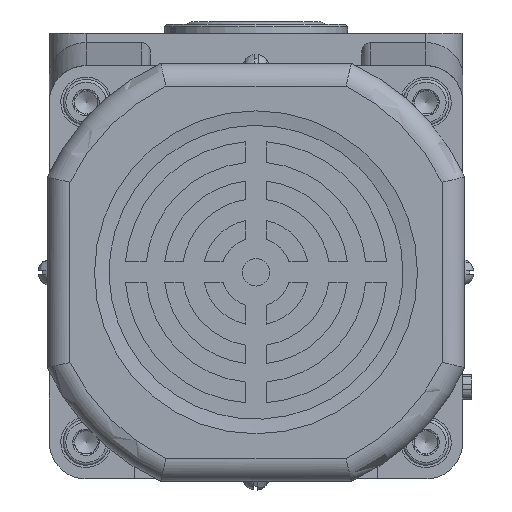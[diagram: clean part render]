
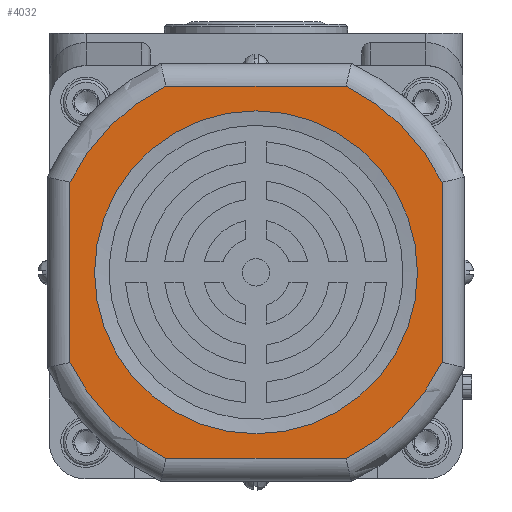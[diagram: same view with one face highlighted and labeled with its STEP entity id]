
A CAD part, front view. The second image highlights one B-rep face of the part: STEP entity #4032.
In plain terms, the highlighted planar face has unit normal (0, -1, 0).
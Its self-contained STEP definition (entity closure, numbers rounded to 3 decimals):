
#770=LINE('',#18398,#1586);
#773=LINE('',#18402,#1589);
#775=LINE('',#18405,#1591);
#777=LINE('',#18408,#1593);
#1586=VECTOR('',#14715,1.);
#1589=VECTOR('',#14720,1.);
#1591=VECTOR('',#14724,1.);
#1593=VECTOR('',#14728,1.);
#4032=ADVANCED_FACE('',(#5149,#5150),#4766,.F.);
#4766=PLANE('',#13241);
#5149=FACE_BOUND('',#5555,.T.);
#5150=FACE_BOUND('',#5556,.T.);
#5555=EDGE_LOOP('',(#6670,#6671,#6672,#6673,#6674,#6675,#6676,#6677));
#5556=EDGE_LOOP('',(#6678));
#6670=ORIENTED_EDGE('',*,*,#10798,.T.);
#6671=ORIENTED_EDGE('',*,*,#10790,.T.);
#6672=ORIENTED_EDGE('',*,*,#10791,.T.);
#6673=ORIENTED_EDGE('',*,*,#10778,.T.);
#6674=ORIENTED_EDGE('',*,*,#10794,.T.);
#6675=ORIENTED_EDGE('',*,*,#10782,.T.);
#6676=ORIENTED_EDGE('',*,*,#10796,.T.);
#6677=ORIENTED_EDGE('',*,*,#10786,.T.);
#6678=ORIENTED_EDGE('',*,*,#10837,.F.);
#9700=VERTEX_POINT('',#18287);
#9702=VERTEX_POINT('',#18302);
#9704=VERTEX_POINT('',#18318);
#9706=VERTEX_POINT('',#18333);
#9708=VERTEX_POINT('',#18349);
#9710=VERTEX_POINT('',#18364);
#9712=VERTEX_POINT('',#18380);
#9714=VERTEX_POINT('',#18395);
#9741=VERTEX_POINT('',#18490);
#10778=EDGE_CURVE('',#9700,#9702,#12363,.T.);
#10782=EDGE_CURVE('',#9704,#9706,#12365,.T.);
#10786=EDGE_CURVE('',#9708,#9710,#12367,.T.);
#10790=EDGE_CURVE('',#9712,#9714,#12369,.T.);
#10791=EDGE_CURVE('',#9714,#9700,#770,.T.);
#10794=EDGE_CURVE('',#9702,#9704,#773,.T.);
#10796=EDGE_CURVE('',#9706,#9708,#775,.T.);
#10798=EDGE_CURVE('',#9710,#9712,#777,.T.);
#10837=EDGE_CURVE('',#9741,#9741,#12372,.T.);
#12363=CIRCLE('',#13208,45.);
#12365=CIRCLE('',#13211,45.);
#12367=CIRCLE('',#13214,45.);
#12369=CIRCLE('',#13217,45.);
#12372=CIRCLE('',#13240,35.157);
#13208=AXIS2_PLACEMENT_3D('',#18303,#14693,#14694);
#13211=AXIS2_PLACEMENT_3D('',#18334,#14699,#14700);
#13214=AXIS2_PLACEMENT_3D('',#18365,#14705,#14706);
#13217=AXIS2_PLACEMENT_3D('',#18396,#14711,#14712);
#13240=AXIS2_PLACEMENT_3D('',#18489,#14801,#14802);
#13241=AXIS2_PLACEMENT_3D('',#18491,#14803,#14804);
#14693=DIRECTION('',(0.,-1.,0.));
#14694=DIRECTION('',(-1.,0.,0.));
#14699=DIRECTION('',(0.,-1.,0.));
#14700=DIRECTION('',(-1.,0.,0.));
#14705=DIRECTION('',(0.,-1.,0.));
#14706=DIRECTION('',(-1.,0.,0.));
#14711=DIRECTION('',(0.,-1.,0.));
#14712=DIRECTION('',(-1.,0.,0.));
#14715=DIRECTION('',(-1.,0.,0.));
#14720=DIRECTION('',(0.,0.,-1.));
#14724=DIRECTION('',(1.,0.,0.));
#14728=DIRECTION('',(0.,0.,1.));
#14801=DIRECTION('',(0.,-1.,0.));
#14802=DIRECTION('',(1.,0.,0.));
#14803=DIRECTION('',(0.,1.,0.));
#14804=DIRECTION('',(-1.,0.,0.));
#18287=CARTESIAN_POINT('',(-19.615,-245.,-11.5));
#18302=CARTESIAN_POINT('',(-40.5,-245.,-32.385));
#18303=CARTESIAN_POINT('',(0.,-245.,-52.));
#18318=CARTESIAN_POINT('',(-40.5,-245.,-71.615));
#18333=CARTESIAN_POINT('',(-19.615,-245.,-92.5));
#18334=CARTESIAN_POINT('',(0.,-245.,-52.));
#18349=CARTESIAN_POINT('',(19.615,-245.,-92.5));
#18364=CARTESIAN_POINT('',(40.5,-245.,-71.615));
#18365=CARTESIAN_POINT('',(0.,-245.,-52.));
#18380=CARTESIAN_POINT('',(40.5,-245.,-32.385));
#18395=CARTESIAN_POINT('',(19.615,-245.,-11.5));
#18396=CARTESIAN_POINT('',(0.,-245.,-52.));
#18398=CARTESIAN_POINT('',(-20.73,-245.,-11.5));
#18402=CARTESIAN_POINT('',(-40.5,-245.,-72.73));
#18405=CARTESIAN_POINT('',(20.73,-245.,-92.5));
#18408=CARTESIAN_POINT('',(40.5,-245.,-31.27));
#18489=CARTESIAN_POINT('',(0.,-245.,-52.));
#18490=CARTESIAN_POINT('',(35.157,-245.,-52.));
#18491=CARTESIAN_POINT('',(0.,-245.,-6.543));
